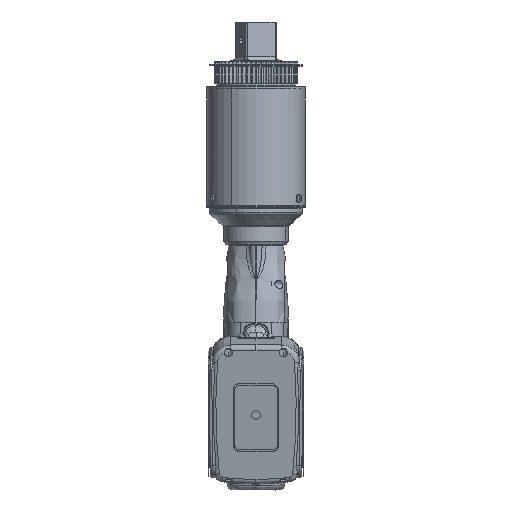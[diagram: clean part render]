
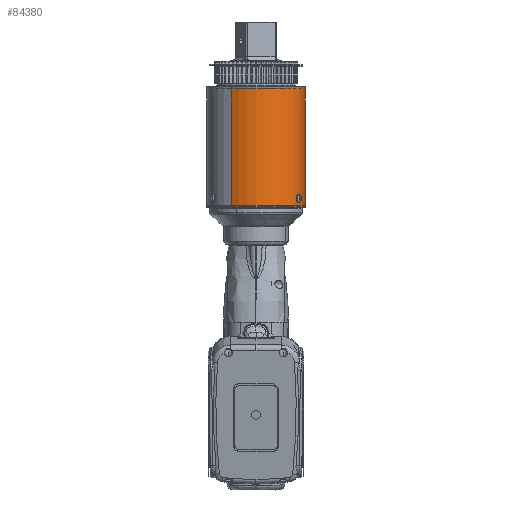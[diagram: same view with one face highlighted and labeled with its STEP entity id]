
A CAD part, front view. The second image highlights one B-rep face of the part: STEP entity #84380.
In plain terms, the highlighted cylindrical face has radius 38.735 mm (diameter 77.47 mm), a partial arc.
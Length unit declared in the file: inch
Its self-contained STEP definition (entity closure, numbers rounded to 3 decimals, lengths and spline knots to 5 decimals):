
#2438 = VECTOR ( 'NONE', #88691, 39.37008 ) ;
#3686 = CARTESIAN_POINT ( 'NONE',  ( 1.35796, -0.69396, 1.18422 ) ) ;
#3765 = LINE ( 'NONE', #198337, #174037 ) ;
#4478 = CARTESIAN_POINT ( 'NONE',  ( 0., 0., 4.6365 ) ) ;
#4615 = CARTESIAN_POINT ( 'NONE',  ( 1.31813, -0.76693, 1.257 ) ) ;
#5521 = VERTEX_POINT ( 'NONE', #105824 ) ;
#8872 = CARTESIAN_POINT ( 'NONE',  ( 1.31044, -0.78, 1.25449 ) ) ;
#13511 = ORIENTED_EDGE ( 'NONE', *, *, #176969, .F. ) ;
#15235 = ORIENTED_EDGE ( 'NONE', *, *, #193533, .T. ) ;
#17710 = CARTESIAN_POINT ( 'NONE',  ( 1.344, -0.72065, 1.24139 ) ) ;
#19805 = CARTESIAN_POINT ( 'NONE',  ( 1.35682, -0.69619, 1.19926 ) ) ;
#23212 = DIRECTION ( 'NONE',  ( 0.5, 0.866, 0. ) ) ;
#23891 = CARTESIAN_POINT ( 'NONE',  ( 1.29628, -0.80331, 1.11696 ) ) ;
#24283 = DIRECTION ( 'NONE',  ( 0., 0., 1. ) ) ;
#24671 = EDGE_CURVE ( 'NONE', #5521, #66157, #48460, .T. ) ;
#24957 = CARTESIAN_POINT ( 'NONE',  ( 1.29417, -0.8067, 1.23777 ) ) ;
#32788 = CARTESIAN_POINT ( 'NONE',  ( 1.33767, -0.73232, 1.10892 ) ) ;
#35884 = CARTESIAN_POINT ( 'NONE',  ( 1.35773, -0.69441, 1.18929 ) ) ;
#37886 = CARTESIAN_POINT ( 'NONE',  ( 1.30794, -0.78418, 1.25301 ) ) ;
#38172 = CARTESIAN_POINT ( 'NONE',  ( -0.7625, -1.32069, 0.949 ) ) ;
#39091 = AXIS2_PLACEMENT_3D ( 'NONE', #172579, #88790, #121020 ) ;
#39775 = EDGE_CURVE ( 'NONE', #53786, #210769, #152372, .T. ) ;
#41044 = CARTESIAN_POINT ( 'NONE',  ( 1.29625, -0.80335, 1.241 ) ) ;
#46768 = CARTESIAN_POINT ( 'NONE',  ( 1.32067, -0.76252, 1.257 ) ) ;
#48460 = B_SPLINE_CURVE_WITH_KNOTS ( 'NONE', 3,
 ( #46768, #112289, #161790, #164947, #17710, #130545, #99363, #118673, #167051, #198263, #19805, #35884, #3686, #184187, #133711, #83311, #116549, #134771, #199324, #148838, #66120, #182065, #52071, #51001, #32788, #212366, #86440, #117584 ),
 .UNSPECIFIED., .F., .F.,
 ( 4, 2, 2, 2, 2, 2, 2, 2, 2, 2, 2, 2, 2, 4 ),
 ( 0.00619, 0.00697, 0.00774, 0.00813, 0.00852, 0.0089, 0.00929, 0.00968, 0.01007, 0.01045, 0.01084, 0.01123, 0.01161, 0.01239 ),
 .UNSPECIFIED. ) ;
#50028 = VERTEX_POINT ( 'NONE', #173334 ) ;
#51001 = CARTESIAN_POINT ( 'NONE',  ( 1.33984, -0.72833, 1.11135 ) ) ;
#52071 = CARTESIAN_POINT ( 'NONE',  ( 1.34389, -0.72084, 1.11706 ) ) ;
#53098 = EDGE_CURVE ( 'NONE', #50028, #95482, #115223, .T. ) ;
#53786 = VERTEX_POINT ( 'NONE', #116037 ) ;
#55111 = CARTESIAN_POINT ( 'NONE',  ( 1.28858, -0.8156, 1.22655 ) ) ;
#57244 = CARTESIAN_POINT ( 'NONE',  ( 1.28529, -0.82077, 1.13975 ) ) ;
#62031 = CARTESIAN_POINT ( 'NONE',  ( -0.7625, -1.32069, 0.949 ) ) ;
#62636 = AXIS2_PLACEMENT_3D ( 'NONE', #184431, #24283, #23212 ) ;
#65610 = ORIENTED_EDGE ( 'NONE', *, *, #39775, .F. ) ;
#66120 = CARTESIAN_POINT ( 'NONE',  ( 1.34911, -0.71102, 1.12749 ) ) ;
#66157 = VERTEX_POINT ( 'NONE', #83206 ) ;
#66909 = DIRECTION ( 'NONE',  ( 0., 0., -1. ) ) ;
#71262 = CARTESIAN_POINT ( 'NONE',  ( 1.28108, -0.82733, 1.15852 ) ) ;
#71649 = CYLINDRICAL_SURFACE ( 'NONE', #62636, 1.525 ) ;
#73375 = CARTESIAN_POINT ( 'NONE',  ( 1.31048, -0.77992, 1.10349 ) ) ;
#77527 = AXIS2_PLACEMENT_3D ( 'NONE', #4478, #66909, #83026 ) ;
#83026 = DIRECTION ( 'NONE',  ( -0.5, -0.866, 0. ) ) ;
#83206 = CARTESIAN_POINT ( 'NONE',  ( 1.32069, -0.7625, 1.101 ) ) ;
#83311 = CARTESIAN_POINT ( 'NONE',  ( 1.35683, -0.69615, 1.15888 ) ) ;
#84380 = ADVANCED_FACE ( 'NONE', ( #138247, #88781 ), #71649, .T. ) ;
#86440 = CARTESIAN_POINT ( 'NONE',  ( 1.32584, -0.75357, 1.101 ) ) ;
#88691 = DIRECTION ( 'NONE',  ( 0., 0., 1. ) ) ;
#88781 = FACE_BOUND ( 'NONE', #122059, .T. ) ;
#88790 = DIRECTION ( 'NONE',  ( 0., 0., -1. ) ) ;
#89453 = CARTESIAN_POINT ( 'NONE',  ( 1.28023, -0.82863, 1.18921 ) ) ;
#90506 = CARTESIAN_POINT ( 'NONE',  ( 1.31556, -0.77134, 1.10151 ) ) ;
#93437 = EDGE_CURVE ( 'NONE', #66157, #5521, #188390, .T. ) ;
#95482 = VERTEX_POINT ( 'NONE', #108996 ) ;
#99363 = CARTESIAN_POINT ( 'NONE',  ( 1.3506, -0.70818, 1.22661 ) ) ;
#104487 = CARTESIAN_POINT ( 'NONE',  ( 1.28555, -0.82037, 1.21809 ) ) ;
#105532 = CARTESIAN_POINT ( 'NONE',  ( 1.31811, -0.76696, 1.101 ) ) ;
#105824 = CARTESIAN_POINT ( 'NONE',  ( 1.32067, -0.76252, 1.257 ) ) ;
#108996 = CARTESIAN_POINT ( 'NONE',  ( -0.7625, -1.32069, 4.6365 ) ) ;
#112289 = CARTESIAN_POINT ( 'NONE',  ( 1.32577, -0.75371, 1.257 ) ) ;
#115223 = CIRCLE ( 'NONE', #77527, 1.525 ) ;
#115845 = ORIENTED_EDGE ( 'NONE', *, *, #24671, .T. ) ;
#116037 = CARTESIAN_POINT ( 'NONE',  ( 0.7625, 1.32069, 0.949 ) ) ;
#116549 = CARTESIAN_POINT ( 'NONE',  ( 1.35615, -0.69748, 1.15393 ) ) ;
#117584 = CARTESIAN_POINT ( 'NONE',  ( 1.32069, -0.7625, 1.101 ) ) ;
#118673 = CARTESIAN_POINT ( 'NONE',  ( 1.35322, -0.70315, 1.21813 ) ) ;
#119564 = CARTESIAN_POINT ( 'NONE',  ( 1.32067, -0.76252, 1.257 ) ) ;
#120629 = CARTESIAN_POINT ( 'NONE',  ( 1.28842, -0.81587, 1.13105 ) ) ;
#121020 = DIRECTION ( 'NONE',  ( -0.5, -0.866, 0. ) ) ;
#122059 = EDGE_LOOP ( 'NONE', ( #187534, #115845 ) ) ;
#130545 = CARTESIAN_POINT ( 'NONE',  ( 1.34906, -0.7111, 1.23062 ) ) ;
#133711 = CARTESIAN_POINT ( 'NONE',  ( 1.35773, -0.6944, 1.16885 ) ) ;
#134771 = CARTESIAN_POINT ( 'NONE',  ( 1.35436, -0.70096, 1.14447 ) ) ;
#136786 = CARTESIAN_POINT ( 'NONE',  ( 1.27996, -0.82905, 1.16878 ) ) ;
#137856 = CARTESIAN_POINT ( 'NONE',  ( 1.27996, -0.82905, 1.18405 ) ) ;
#138247 = FACE_OUTER_BOUND ( 'NONE', #176454, .T. ) ;
#138939 = CARTESIAN_POINT ( 'NONE',  ( 1.29416, -0.80672, 1.12025 ) ) ;
#148838 = CARTESIAN_POINT ( 'NONE',  ( 1.35064, -0.7081, 1.13151 ) ) ;
#151857 = CARTESIAN_POINT ( 'NONE',  ( 1.28212, -0.82572, 1.20408 ) ) ;
#152372 = CIRCLE ( 'NONE', #39091, 1.525 ) ;
#156065 = CARTESIAN_POINT ( 'NONE',  ( 1.30068, -0.79616, 1.24665 ) ) ;
#161790 = CARTESIAN_POINT ( 'NONE',  ( 1.3308, -0.74477, 1.25496 ) ) ;
#164947 = CARTESIAN_POINT ( 'NONE',  ( 1.33987, -0.72832, 1.2472 ) ) ;
#166190 = ORIENTED_EDGE ( 'NONE', *, *, #53098, .T. ) ;
#167051 = CARTESIAN_POINT ( 'NONE',  ( 1.35433, -0.70102, 1.21365 ) ) ;
#169048 = CARTESIAN_POINT ( 'NONE',  ( 1.31552, -0.7714, 1.25649 ) ) ;
#170096 = CARTESIAN_POINT ( 'NONE',  ( 1.2903, -0.81287, 1.23048 ) ) ;
#172198 = CARTESIAN_POINT ( 'NONE',  ( 1.30794, -0.78418, 1.10499 ) ) ;
#172579 = CARTESIAN_POINT ( 'NONE',  ( 0., 0., 0.949 ) ) ;
#173334 = CARTESIAN_POINT ( 'NONE',  ( 0.7625, 1.32069, 4.6365 ) ) ;
#174037 = VECTOR ( 'NONE', #196227, 39.37008 ) ;
#176454 = EDGE_LOOP ( 'NONE', ( #13511, #65610, #15235, #166190 ) ) ;
#176969 = EDGE_CURVE ( 'NONE', #210769, #95482, #188587, .T. ) ;
#182065 = CARTESIAN_POINT ( 'NONE',  ( 1.34574, -0.71738, 1.12029 ) ) ;
#184047 = CARTESIAN_POINT ( 'NONE',  ( 1.30072, -0.79609, 1.1113 ) ) ;
#184187 = CARTESIAN_POINT ( 'NONE',  ( 1.35796, -0.69395, 1.17393 ) ) ;
#184431 = CARTESIAN_POINT ( 'NONE',  ( 0., 0., 0.949 ) ) ;
#186170 = CARTESIAN_POINT ( 'NONE',  ( 1.28423, -0.82243, 1.21353 ) ) ;
#187246 = CARTESIAN_POINT ( 'NONE',  ( 1.30306, -0.79227, 1.2491 ) ) ;
#187534 = ORIENTED_EDGE ( 'NONE', *, *, #93437, .T. ) ;
#188301 = CARTESIAN_POINT ( 'NONE',  ( 1.32069, -0.7625, 1.101 ) ) ;
#188390 = B_SPLINE_CURVE_WITH_KNOTS ( 'NONE', 3,
 ( #188301, #105532, #90506, #73375, #172198, #202361, #184047, #23891, #138939, #120629, #57244, #71262, #136786, #137856, #89453, #204514, #151857, #186170, #104487, #55111, #170096, #24957, #41044, #156065, #187246, #37886, #8872, #169048, #4615, #119564 ),
 .UNSPECIFIED., .F., .F.,
 ( 4, 2, 2, 2, 2, 2, 2, 2, 2, 2, 2, 2, 2, 2, 4 ),
 ( 0., 0.00039, 0.00077, 0.00116, 0.00155, 0.00232, 0.0031, 0.00348, 0.00387, 0.00426, 0.00465, 0.00503, 0.00542, 0.00581, 0.00619 ),
 .UNSPECIFIED. ) ;
#188587 = LINE ( 'NONE', #38172, #2438 ) ;
#193533 = EDGE_CURVE ( 'NONE', #53786, #50028, #3765, .T. ) ;
#196227 = DIRECTION ( 'NONE',  ( 0., 0., 1. ) ) ;
#198263 = CARTESIAN_POINT ( 'NONE',  ( 1.35613, -0.69753, 1.20422 ) ) ;
#198337 = CARTESIAN_POINT ( 'NONE',  ( 0.7625, 1.32069, 0.949 ) ) ;
#199324 = CARTESIAN_POINT ( 'NONE',  ( 1.35325, -0.70309, 1.13999 ) ) ;
#202361 = CARTESIAN_POINT ( 'NONE',  ( 1.30306, -0.79226, 1.1089 ) ) ;
#204514 = CARTESIAN_POINT ( 'NONE',  ( 1.28132, -0.82696, 1.19922 ) ) ;
#210769 = VERTEX_POINT ( 'NONE', #62031 ) ;
#212366 = CARTESIAN_POINT ( 'NONE',  ( 1.33087, -0.74465, 1.10307 ) ) ;
